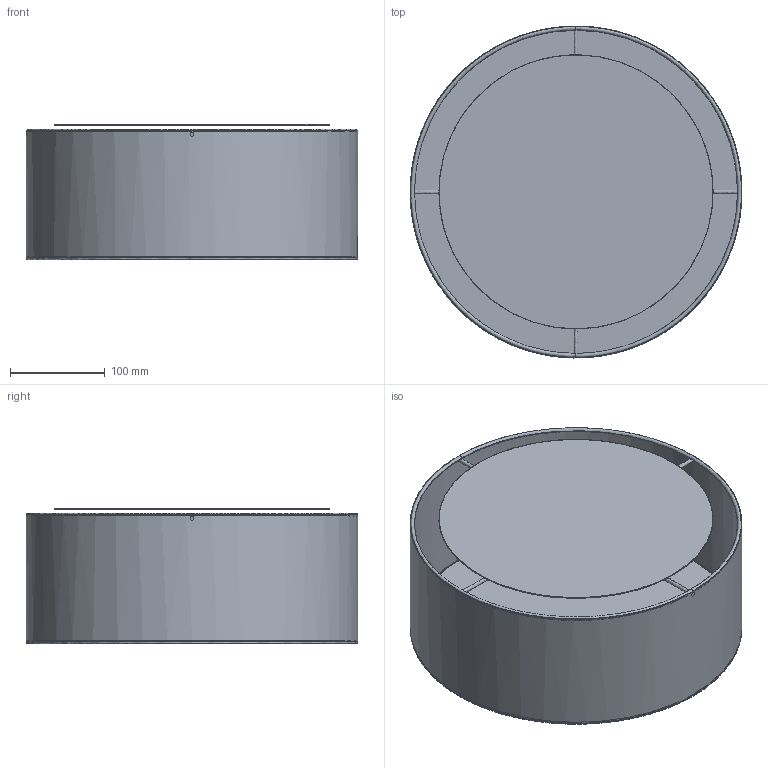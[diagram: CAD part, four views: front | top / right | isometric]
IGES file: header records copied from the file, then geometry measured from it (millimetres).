
Start section: SolidWorks IGES file using NURBS representation for surfaces
Global section: file name: Z:\Modele 3D_WWW\_KOLEKCJE WWW\CAMERON\CAMERON-9687-9686-9605\CAMERON-9687-9686-9605.IGS; native system: SolidWorks 2021; preprocessor: SolidWorks 2021; author: gabriela.tworek; date: 220324.104025; units: millimetre
Bounding box: 351 x 350.96 x 143.53 mm (x, y, z)
Surface area: 646722.3 mm2 (no closed solid volume)
Topology: 0 solids, 0 shells, 37 faces, 667 edges, 614 vertices
Faces by surface type: bspline 37
